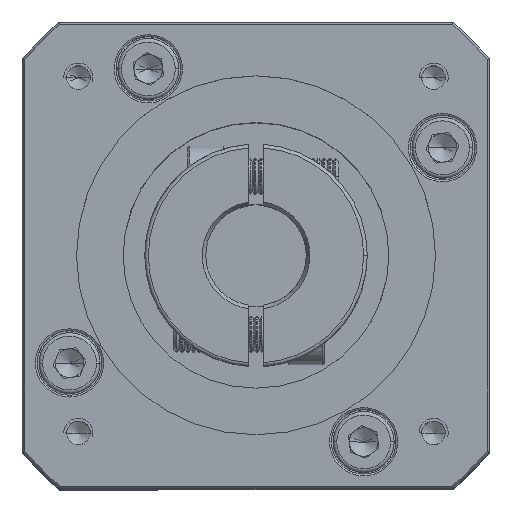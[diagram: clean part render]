
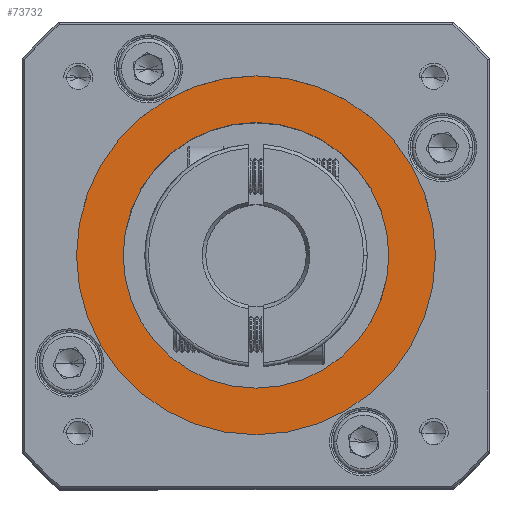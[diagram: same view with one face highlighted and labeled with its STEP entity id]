
A CAD part, top view. The second image highlights one B-rep face of the part: STEP entity #73732.
In plain terms, the highlighted planar face has unit normal (0, 0, 1).
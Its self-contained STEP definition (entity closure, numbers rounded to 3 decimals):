
#1619 = CIRCLE ( 'NONE', #108788, 25. ) ;
#4983 = AXIS2_PLACEMENT_3D ( 'NONE', #17516, #6724, #8350 ) ;
#6724 = DIRECTION ( 'NONE',  ( 0., 0., -1. ) ) ;
#7644 = CARTESIAN_POINT ( 'NONE',  ( -70.09, 29.291, 0.97 ) ) ;
#8350 = DIRECTION ( 'NONE',  ( 1., 0., 0. ) ) ;
#12818 = EDGE_CURVE ( 'NONE', #43544, #75878, #32802, .T. ) ;
#17516 = CARTESIAN_POINT ( 'NONE',  ( -45.09, 29.291, 0.97 ) ) ;
#18961 = VERTEX_POINT ( 'NONE', #101383 ) ;
#22657 = DIRECTION ( 'NONE',  ( 0., 0., 1. ) ) ;
#24318 = DIRECTION ( 'NONE',  ( 1., 0., 0. ) ) ;
#26462 = DIRECTION ( 'NONE',  ( 0., 0., 1. ) ) ;
#27124 = EDGE_LOOP ( 'NONE', ( #108849, #114749 ) ) ;
#32802 = CIRCLE ( 'NONE', #62775, 25. ) ;
#33439 = PLANE ( 'NONE',  #112042 ) ;
#37565 = ORIENTED_EDGE ( 'NONE', *, *, #107442, .T. ) ;
#40497 = CARTESIAN_POINT ( 'NONE',  ( -45.09, 29.291, 0.97 ) ) ;
#41980 = CIRCLE ( 'NONE', #4983, 18.5 ) ;
#43544 = VERTEX_POINT ( 'NONE', #102133 ) ;
#58426 = VERTEX_POINT ( 'NONE', #85105 ) ;
#59655 = DIRECTION ( 'NONE',  ( 1., 0., 0. ) ) ;
#62775 = AXIS2_PLACEMENT_3D ( 'NONE', #113780, #121341, #74275 ) ;
#63743 = EDGE_LOOP ( 'NONE', ( #37565, #108560 ) ) ;
#64535 = AXIS2_PLACEMENT_3D ( 'NONE', #40497, #116760, #59655 ) ;
#73732 = ADVANCED_FACE ( 'NONE', ( #95924, #104883 ), #33439, .T. ) ;
#74275 = DIRECTION ( 'NONE',  ( 1., 0., 0. ) ) ;
#75878 = VERTEX_POINT ( 'NONE', #7644 ) ;
#78993 = EDGE_CURVE ( 'NONE', #75878, #43544, #1619, .T. ) ;
#79702 = CARTESIAN_POINT ( 'NONE',  ( -45.09, 29.291, 0.97 ) ) ;
#83498 = CARTESIAN_POINT ( 'NONE',  ( -45.09, 29.291, 0.97 ) ) ;
#85105 = CARTESIAN_POINT ( 'NONE',  ( -63.59, 29.291, 0.97 ) ) ;
#90357 = CIRCLE ( 'NONE', #64535, 18.5 ) ;
#93052 = DIRECTION ( 'NONE',  ( 1., 0., 0. ) ) ;
#95924 = FACE_OUTER_BOUND ( 'NONE', #27124, .T. ) ;
#101383 = CARTESIAN_POINT ( 'NONE',  ( -26.59, 29.291, 0.97 ) ) ;
#102133 = CARTESIAN_POINT ( 'NONE',  ( -20.09, 29.291, 0.97 ) ) ;
#104883 = FACE_BOUND ( 'NONE', #63743, .T. ) ;
#107442 = EDGE_CURVE ( 'NONE', #18961, #58426, #90357, .T. ) ;
#108560 = ORIENTED_EDGE ( 'NONE', *, *, #120800, .T. ) ;
#108788 = AXIS2_PLACEMENT_3D ( 'NONE', #83498, #26462, #93052 ) ;
#108849 = ORIENTED_EDGE ( 'NONE', *, *, #12818, .T. ) ;
#112042 = AXIS2_PLACEMENT_3D ( 'NONE', #79702, #22657, #24318 ) ;
#113780 = CARTESIAN_POINT ( 'NONE',  ( -45.09, 29.291, 0.97 ) ) ;
#114749 = ORIENTED_EDGE ( 'NONE', *, *, #78993, .T. ) ;
#116760 = DIRECTION ( 'NONE',  ( 0., 0., -1. ) ) ;
#120800 = EDGE_CURVE ( 'NONE', #58426, #18961, #41980, .T. ) ;
#121341 = DIRECTION ( 'NONE',  ( 0., 0., 1. ) ) ;
